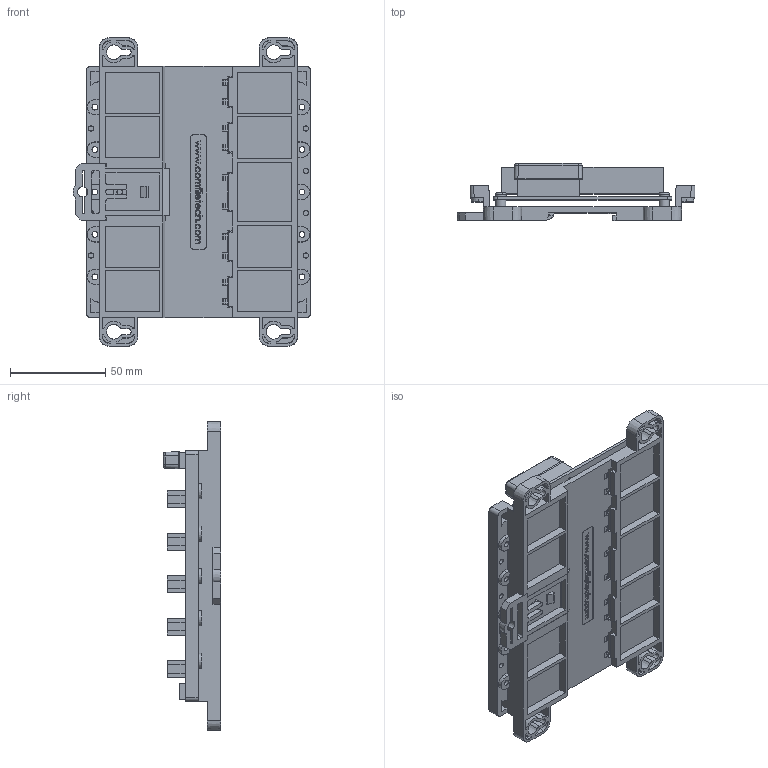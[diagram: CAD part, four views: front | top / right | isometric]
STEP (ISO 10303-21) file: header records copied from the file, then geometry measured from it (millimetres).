
FILE_DESCRIPTION (( 'STEP AP214' ), '1' );
FILE_NAME ('MOACON_BASE_5set¿ë_forStep.STEP', '2024-04-01T07:04:08', ( '' ), ( '' ), 'SwSTEP 2.0', 'SolidWorks 2020', '' );
FILE_SCHEMA (( 'AUTOMOTIVE_DESIGN' ));
Length unit declared in the file: millimetre
Products named in the file (1): MOACON_BASE_5set¿ë_forStep
Bounding box: 125.04 x 30 x 162.24 mm (x, y, z)
Surface area: 109052.6 mm2 (no closed solid volume)
Topology: 0 solids, 24 shells, 1365 faces, 4384 edges, 2926 vertices
Faces by surface type: plane 966, bspline 190, cone 105, cylinder 82, torus 20, sphere 2
Full cylindrical faces by diameter (mm): 0.5 x13, 1.603 x2, 2.2 x1, 3 x11, 5.4 x10
Entity records: 70577 total; most frequent: CARTESIAN_POINT 19630, ORIENTED_EDGE 7439, DIRECTION 6318, EDGE_CURVE 4304, VECTOR 3116, LINE 3116, VERTEX_POINT 2913, EDGE_LOOP 1612
